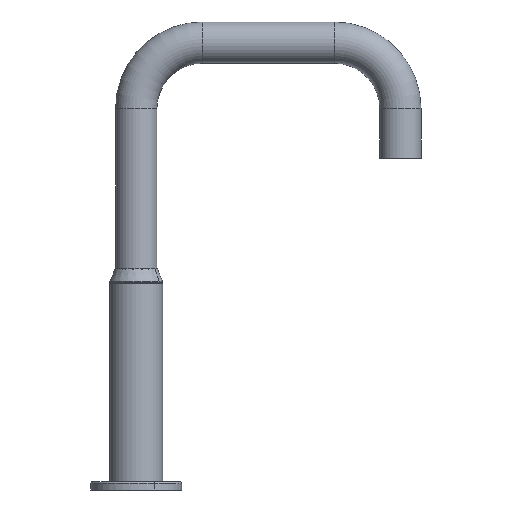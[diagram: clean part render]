
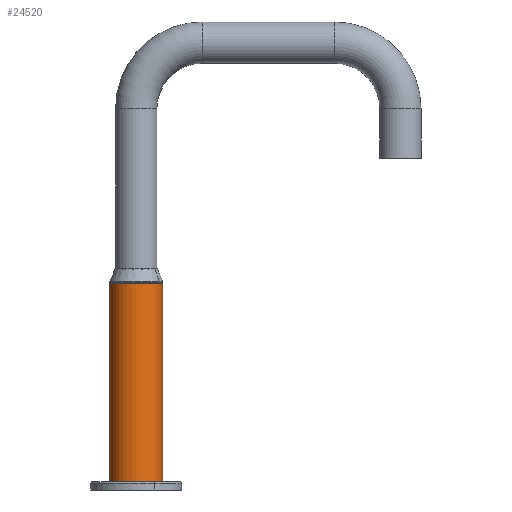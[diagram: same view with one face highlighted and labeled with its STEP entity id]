
A CAD part, front view. The second image highlights one B-rep face of the part: STEP entity #24520.
In plain terms, the highlighted cylindrical face has radius 16 mm (diameter 32 mm), a partial arc.
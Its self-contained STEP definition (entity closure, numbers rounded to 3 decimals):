
#62 = CYLINDRICAL_SURFACE ( 'NONE', #38622, 16. ) ;
#170 = CIRCLE ( 'NONE', #8400, 16. ) ;
#1635 = CARTESIAN_POINT ( 'NONE',  ( -16., 0., 120. ) ) ;
#4144 = CARTESIAN_POINT ( 'NONE',  ( 16., 0., 120. ) ) ;
#5869 = DIRECTION ( 'NONE',  ( 1., 0., 0. ) ) ;
#5937 = DIRECTION ( 'NONE',  ( 1., 0., 0. ) ) ;
#7465 = ORIENTED_EDGE ( 'NONE', *, *, #40788, .T. ) ;
#7796 = CARTESIAN_POINT ( 'NONE',  ( 16., 0., 0. ) ) ;
#8400 = AXIS2_PLACEMENT_3D ( 'NONE', #38104, #9475, #5869 ) ;
#8717 = CARTESIAN_POINT ( 'NONE',  ( 0., 0., 120. ) ) ;
#9475 = DIRECTION ( 'NONE',  ( 0., 0., 1. ) ) ;
#9699 = DIRECTION ( 'NONE',  ( 0., 0., 1. ) ) ;
#10516 = EDGE_CURVE ( 'NONE', #31184, #42113, #15075, .T. ) ;
#12397 = EDGE_LOOP ( 'NONE', ( #41515, #13411, #7465, #39999 ) ) ;
#12630 = CARTESIAN_POINT ( 'NONE',  ( -16., 0., 0. ) ) ;
#12883 = FACE_OUTER_BOUND ( 'NONE', #12397, .T. ) ;
#13411 = ORIENTED_EDGE ( 'NONE', *, *, #38801, .F. ) ;
#15075 = LINE ( 'NONE', #4144, #18960 ) ;
#15475 = DIRECTION ( 'NONE',  ( 0., 0., -1. ) ) ;
#17364 = VECTOR ( 'NONE', #38602, 1000. ) ;
#18960 = VECTOR ( 'NONE', #36215, 1000. ) ;
#23622 = CARTESIAN_POINT ( 'NONE',  ( 0., 0., 120. ) ) ;
#24520 = ADVANCED_FACE ( 'NONE', ( #12883 ), #62, .T. ) ;
#24610 = VERTEX_POINT ( 'NONE', #12630 ) ;
#25301 = AXIS2_PLACEMENT_3D ( 'NONE', #23622, #9699, #5937 ) ;
#25905 = DIRECTION ( 'NONE',  ( -1., 0., 0. ) ) ;
#29107 = LINE ( 'NONE', #45593, #17364 ) ;
#31184 = VERTEX_POINT ( 'NONE', #43648 ) ;
#31660 = EDGE_CURVE ( 'NONE', #24610, #42113, #170, .T. ) ;
#36215 = DIRECTION ( 'NONE',  ( 0., 0., -1. ) ) ;
#38104 = CARTESIAN_POINT ( 'NONE',  ( 0., 0., 0. ) ) ;
#38602 = DIRECTION ( 'NONE',  ( 0., 0., -1. ) ) ;
#38622 = AXIS2_PLACEMENT_3D ( 'NONE', #8717, #15475, #25905 ) ;
#38801 = EDGE_CURVE ( 'NONE', #40167, #31184, #44260, .T. ) ;
#39999 = ORIENTED_EDGE ( 'NONE', *, *, #31660, .T. ) ;
#40167 = VERTEX_POINT ( 'NONE', #1635 ) ;
#40788 = EDGE_CURVE ( 'NONE', #40167, #24610, #29107, .T. ) ;
#41515 = ORIENTED_EDGE ( 'NONE', *, *, #10516, .F. ) ;
#42113 = VERTEX_POINT ( 'NONE', #7796 ) ;
#43648 = CARTESIAN_POINT ( 'NONE',  ( 16., 0., 120. ) ) ;
#44260 = CIRCLE ( 'NONE', #25301, 16. ) ;
#45593 = CARTESIAN_POINT ( 'NONE',  ( -16., 0., 120. ) ) ;
